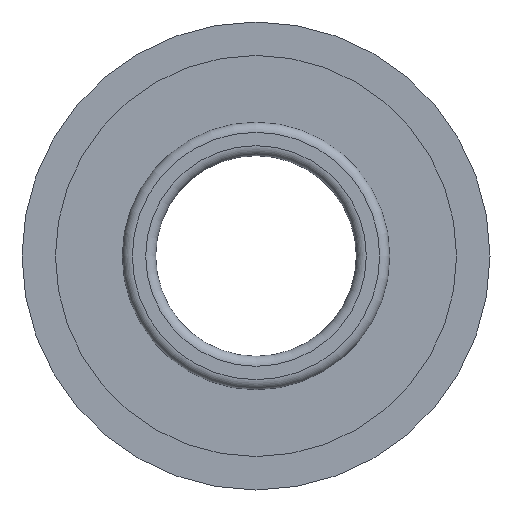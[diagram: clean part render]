
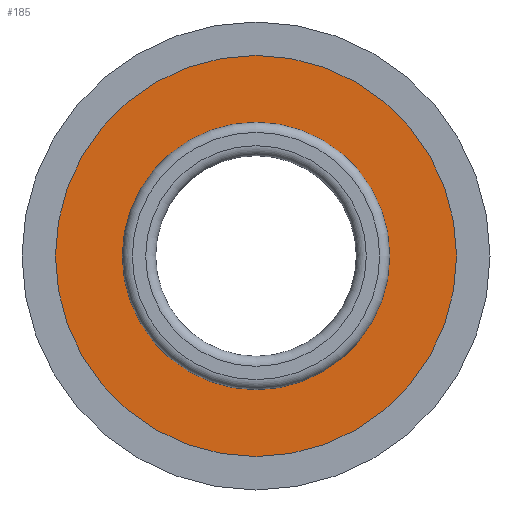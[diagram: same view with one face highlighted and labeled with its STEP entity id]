
A CAD part, front view. The second image highlights one B-rep face of the part: STEP entity #185.
In plain terms, the highlighted planar face has unit normal (0, -1, 0).
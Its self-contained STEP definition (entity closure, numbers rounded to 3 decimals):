
#30=FACE_BOUND('',#61,.T.);
#34=PLANE('',#236);
#45=FACE_OUTER_BOUND('',#60,.T.);
#60=EDGE_LOOP('',(#164));
#61=EDGE_LOOP('',(#165));
#81=CIRCLE('',#235,30.);
#82=CIRCLE('',#237,20.);
#97=VERTEX_POINT('',#354);
#98=VERTEX_POINT('',#358);
#120=EDGE_CURVE('',#97,#97,#81,.T.);
#121=EDGE_CURVE('',#98,#98,#82,.T.);
#164=ORIENTED_EDGE('',*,*,#120,.T.);
#165=ORIENTED_EDGE('',*,*,#121,.F.);
#185=ADVANCED_FACE('',(#45,#30),#34,.T.);
#235=AXIS2_PLACEMENT_3D('',#356,#300,#301);
#236=AXIS2_PLACEMENT_3D('',#357,#302,#303);
#237=AXIS2_PLACEMENT_3D('',#359,#304,#305);
#300=DIRECTION('center_axis',(0.,-1.,0.));
#301=DIRECTION('ref_axis',(1.,0.,0.));
#302=DIRECTION('center_axis',(0.,-1.,0.));
#303=DIRECTION('ref_axis',(0.,0.,-1.));
#304=DIRECTION('center_axis',(0.,-1.,0.));
#305=DIRECTION('ref_axis',(1.,0.,0.));
#354=CARTESIAN_POINT('',(-30.,7.,0.));
#356=CARTESIAN_POINT('Origin',(0.,7.,0.));
#357=CARTESIAN_POINT('Origin',(20.,7.,0.));
#358=CARTESIAN_POINT('',(-20.,7.,0.));
#359=CARTESIAN_POINT('Origin',(0.,7.,0.));
